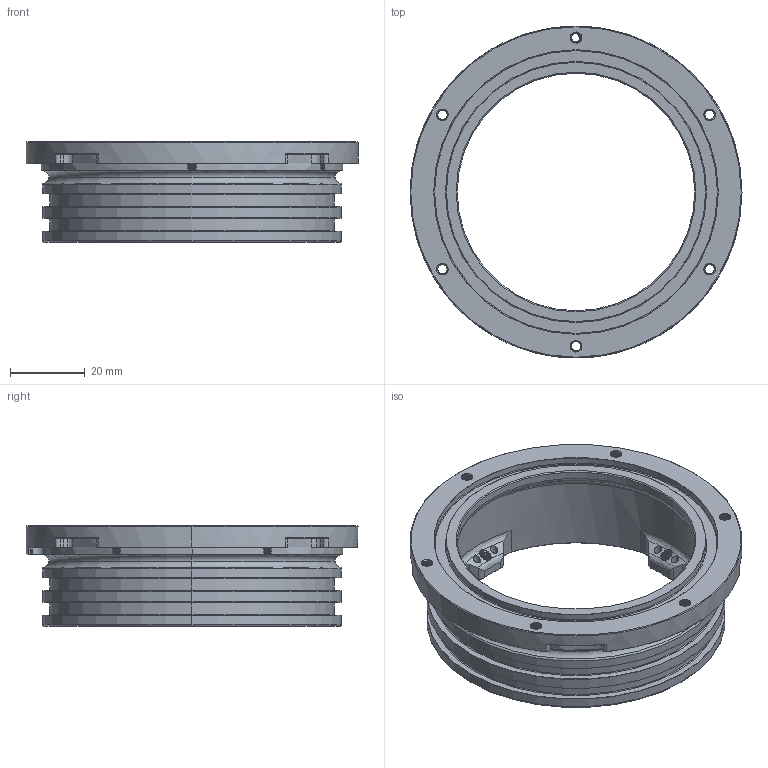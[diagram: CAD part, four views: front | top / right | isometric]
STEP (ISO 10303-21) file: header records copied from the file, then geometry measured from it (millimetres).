
FILE_DESCRIPTION (( 'STEP AP214' ), '1' );
FILE_NAME ('BR-100416_Rev.step', '2024-12-10T19:42:49', ( '' ), ( '' ), 'SwSTEP 2.0', 'SolidWorks 2024', '' );
FILE_SCHEMA (( 'AUTOMOTIVE_DESIGN' ));
Length unit declared in the file: millimetre
Products named in the file (1): BR-100416_Rev
Bounding box: 88.9 x 88.9 x 27 mm (x, y, z)
Volume: 29239 mm3; surface area: 22520.4 mm2
Topology: 1 solids, 1 shells, 757 faces, 2137 edges, 1378 vertices
Faces by surface type: cylinder 394, bspline 136, cone 135, plane 58, torus 34
Entity records: 117427 total; most frequent: CARTESIAN_POINT 100959, ORIENTED_EDGE 4274, DIRECTION 2654, EDGE_CURVE 2137, VERTEX_POINT 1378, AXIS2_PLACEMENT_3D 1024, EDGE_LOOP 791, FACE_OUTER_BOUND 757
